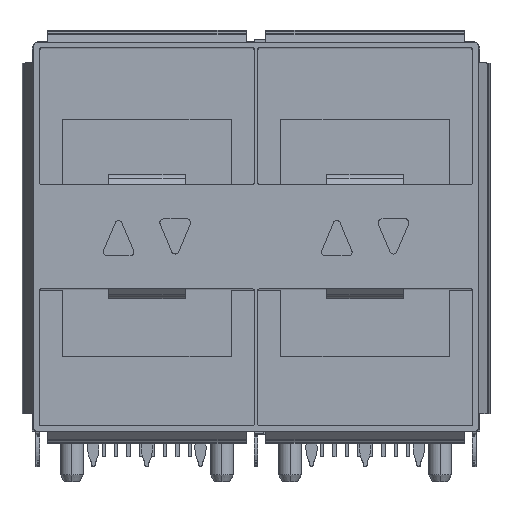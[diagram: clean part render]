
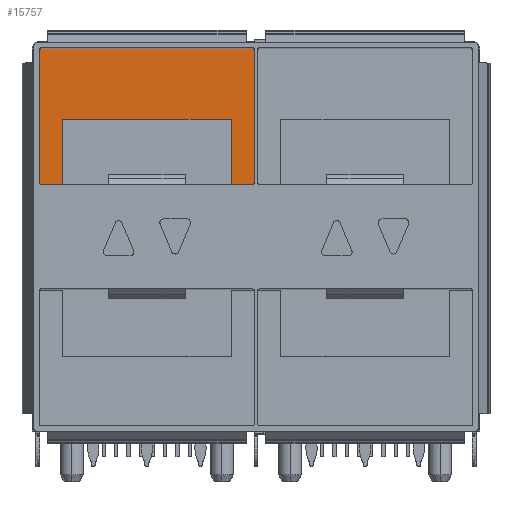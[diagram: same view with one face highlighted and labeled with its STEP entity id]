
A CAD part, top view. The second image highlights one B-rep face of the part: STEP entity #15757.
In plain terms, the highlighted planar face has unit normal (0, 0, 1).
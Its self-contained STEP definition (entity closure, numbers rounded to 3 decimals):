
#591 = VERTEX_POINT ( 'NONE', #13235 ) ;
#1411 = CARTESIAN_POINT ( 'NONE',  ( -12.625, 16., -48.55 ) ) ;
#1906 = AXIS2_PLACEMENT_3D ( 'NONE', #40643, #16156, #44756 ) ;
#2140 = DIRECTION ( 'NONE',  ( 0., -1., 0. ) ) ;
#2176 = PLANE ( 'NONE',  #2891 ) ;
#2337 = DIRECTION ( 'NONE',  ( 0., 0., -1. ) ) ;
#2891 = AXIS2_PLACEMENT_3D ( 'NONE', #22735, #2337, #30986 ) ;
#3923 = DIRECTION ( 'NONE',  ( 0., 1., 0. ) ) ;
#4719 = DIRECTION ( 'NONE',  ( 1., 0., 0. ) ) ;
#5160 = EDGE_CURVE ( 'NONE', #26296, #13229, #47649, .T. ) ;
#5812 = CARTESIAN_POINT ( 'NONE',  ( -14.125, 16.1, -48.55 ) ) ;
#6065 = VECTOR ( 'NONE', #4719, 1000. ) ;
#6522 = CARTESIAN_POINT ( 'NONE',  ( -1.625, 20.35, -48.55 ) ) ;
#6592 = VECTOR ( 'NONE', #47701, 1000. ) ;
#7249 = ORIENTED_EDGE ( 'NONE', *, *, #47745, .T. ) ;
#7448 = CIRCLE ( 'NONE', #29012, 0.1 ) ;
#7923 = DIRECTION ( 'NONE',  ( 0., 0., 1. ) ) ;
#8590 = VERTEX_POINT ( 'NONE', #31480 ) ;
#8833 = CARTESIAN_POINT ( 'NONE',  ( -12.625, 20.35, -48.55 ) ) ;
#9551 = CARTESIAN_POINT ( 'NONE',  ( -1.625, 16., -48.55 ) ) ;
#12201 = VECTOR ( 'NONE', #2140, 1000. ) ;
#12551 = ORIENTED_EDGE ( 'NONE', *, *, #20703, .T. ) ;
#13229 = VERTEX_POINT ( 'NONE', #26539 ) ;
#13235 = CARTESIAN_POINT ( 'NONE',  ( -0.225, 24.95, -48.55 ) ) ;
#13385 = ORIENTED_EDGE ( 'NONE', *, *, #18909, .T. ) ;
#13410 = LINE ( 'NONE', #28508, #35132 ) ;
#13719 = VECTOR ( 'NONE', #20889, 1000. ) ;
#13856 = CARTESIAN_POINT ( 'NONE',  ( -0.225, 24.95, -48.55 ) ) ;
#14875 = EDGE_CURVE ( 'NONE', #13229, #41692, #16952, .T. ) ;
#15282 = EDGE_LOOP ( 'NONE', ( #18843, #13385, #20254, #7249, #48199, #23632, #30127, #42498, #34336, #22580, #37953, #12551 ) ) ;
#15757 = ADVANCED_FACE ( 'NONE', ( #34752 ), #2176, .F. ) ;
#15811 = CARTESIAN_POINT ( 'NONE',  ( -14.025, 16.1, -48.55 ) ) ;
#16156 = DIRECTION ( 'NONE',  ( 0., 0., 1. ) ) ;
#16952 = LINE ( 'NONE', #8833, #6065 ) ;
#17288 = DIRECTION ( 'NONE',  ( 0., 0., 1. ) ) ;
#17323 = VERTEX_POINT ( 'NONE', #9551 ) ;
#18843 = ORIENTED_EDGE ( 'NONE', *, *, #52428, .T. ) ;
#18870 = AXIS2_PLACEMENT_3D ( 'NONE', #41774, #17288, #45914 ) ;
#18909 = EDGE_CURVE ( 'NONE', #591, #39214, #50165, .T. ) ;
#19074 = CARTESIAN_POINT ( 'NONE',  ( -1.625, 20.35, -48.55 ) ) ;
#19352 = DIRECTION ( 'NONE',  ( 0., 1., 0. ) ) ;
#19905 = DIRECTION ( 'NONE',  ( -1., 0., 0. ) ) ;
#20254 = ORIENTED_EDGE ( 'NONE', *, *, #28497, .T. ) ;
#20536 = VERTEX_POINT ( 'NONE', #5812 ) ;
#20703 = EDGE_CURVE ( 'NONE', #49504, #28284, #34582, .T. ) ;
#20889 = DIRECTION ( 'NONE',  ( 1., 0., 0. ) ) ;
#21411 = AXIS2_PLACEMENT_3D ( 'NONE', #32455, #7923, #36554 ) ;
#22580 = ORIENTED_EDGE ( 'NONE', *, *, #42833, .T. ) ;
#22735 = CARTESIAN_POINT ( 'NONE',  ( -14.375, 25.2, -48.55 ) ) ;
#23086 = CARTESIAN_POINT ( 'NONE',  ( -0.125, 16.1, -48.55 ) ) ;
#23613 = EDGE_CURVE ( 'NONE', #20536, #8590, #7448, .T. ) ;
#23632 = ORIENTED_EDGE ( 'NONE', *, *, #45621, .T. ) ;
#23979 = CIRCLE ( 'NONE', #1906, 0.1 ) ;
#26296 = VERTEX_POINT ( 'NONE', #1411 ) ;
#26539 = CARTESIAN_POINT ( 'NONE',  ( -12.625, 20.35, -48.55 ) ) ;
#26668 = CARTESIAN_POINT ( 'NONE',  ( -14.125, 24.85, -48.55 ) ) ;
#28284 = VERTEX_POINT ( 'NONE', #48416 ) ;
#28497 = EDGE_CURVE ( 'NONE', #39214, #42025, #41839, .T. ) ;
#28508 = CARTESIAN_POINT ( 'NONE',  ( -1.625, 16., -48.55 ) ) ;
#29012 = AXIS2_PLACEMENT_3D ( 'NONE', #15811, #44430, #19905 ) ;
#29746 = VECTOR ( 'NONE', #3923, 1000. ) ;
#30127 = ORIENTED_EDGE ( 'NONE', *, *, #5160, .T. ) ;
#30986 = DIRECTION ( 'NONE',  ( -1., 0., 0. ) ) ;
#31480 = CARTESIAN_POINT ( 'NONE',  ( -14.025, 16., -48.55 ) ) ;
#32455 = CARTESIAN_POINT ( 'NONE',  ( -0.225, 16.1, -48.55 ) ) ;
#32564 = CARTESIAN_POINT ( 'NONE',  ( -12.625, 20.35, -48.55 ) ) ;
#32651 = DIRECTION ( 'NONE',  ( 1., 0., 0. ) ) ;
#33920 = LINE ( 'NONE', #26668, #12201 ) ;
#34217 = DIRECTION ( 'NONE',  ( -1., 0., 0. ) ) ;
#34336 = ORIENTED_EDGE ( 'NONE', *, *, #45971, .T. ) ;
#34582 = LINE ( 'NONE', #35644, #46749 ) ;
#34752 = FACE_OUTER_BOUND ( 'NONE', #15282, .T. ) ;
#35132 = VECTOR ( 'NONE', #32651, 1000. ) ;
#35644 = CARTESIAN_POINT ( 'NONE',  ( -0.125, 16.1, -48.55 ) ) ;
#36355 = VERTEX_POINT ( 'NONE', #47525 ) ;
#36554 = DIRECTION ( 'NONE',  ( -1., 0., 0. ) ) ;
#36727 = LINE ( 'NONE', #49515, #13719 ) ;
#37953 = ORIENTED_EDGE ( 'NONE', *, *, #49081, .T. ) ;
#38027 = VECTOR ( 'NONE', #34217, 1000. ) ;
#39214 = VERTEX_POINT ( 'NONE', #49346 ) ;
#39232 = LINE ( 'NONE', #19074, #6592 ) ;
#40643 = CARTESIAN_POINT ( 'NONE',  ( -0.225, 24.85, -48.55 ) ) ;
#41522 = CARTESIAN_POINT ( 'NONE',  ( -14.125, 24.85, -48.55 ) ) ;
#41692 = VERTEX_POINT ( 'NONE', #6522 ) ;
#41774 = CARTESIAN_POINT ( 'NONE',  ( -14.025, 24.85, -48.55 ) ) ;
#41839 = CIRCLE ( 'NONE', #18870, 0.1 ) ;
#42025 = VERTEX_POINT ( 'NONE', #41522 ) ;
#42498 = ORIENTED_EDGE ( 'NONE', *, *, #14875, .T. ) ;
#42833 = EDGE_CURVE ( 'NONE', #17323, #36355, #13410, .T. ) ;
#44430 = DIRECTION ( 'NONE',  ( 0., 0., 1. ) ) ;
#44756 = DIRECTION ( 'NONE',  ( -1., 0., 0. ) ) ;
#45621 = EDGE_CURVE ( 'NONE', #8590, #26296, #36727, .T. ) ;
#45914 = DIRECTION ( 'NONE',  ( -1., 0., 0. ) ) ;
#45971 = EDGE_CURVE ( 'NONE', #41692, #17323, #39232, .T. ) ;
#46749 = VECTOR ( 'NONE', #19352, 1000. ) ;
#47525 = CARTESIAN_POINT ( 'NONE',  ( -0.225, 16., -48.55 ) ) ;
#47649 = LINE ( 'NONE', #32564, #29746 ) ;
#47701 = DIRECTION ( 'NONE',  ( 0., -1., 0. ) ) ;
#47745 = EDGE_CURVE ( 'NONE', #42025, #20536, #33920, .T. ) ;
#48199 = ORIENTED_EDGE ( 'NONE', *, *, #23613, .T. ) ;
#48416 = CARTESIAN_POINT ( 'NONE',  ( -0.125, 24.85, -48.55 ) ) ;
#49081 = EDGE_CURVE ( 'NONE', #36355, #49504, #51155, .T. ) ;
#49346 = CARTESIAN_POINT ( 'NONE',  ( -14.025, 24.95, -48.55 ) ) ;
#49504 = VERTEX_POINT ( 'NONE', #23086 ) ;
#49515 = CARTESIAN_POINT ( 'NONE',  ( -12.625, 16., -48.55 ) ) ;
#50165 = LINE ( 'NONE', #13856, #38027 ) ;
#51155 = CIRCLE ( 'NONE', #21411, 0.1 ) ;
#52428 = EDGE_CURVE ( 'NONE', #28284, #591, #23979, .T. ) ;
